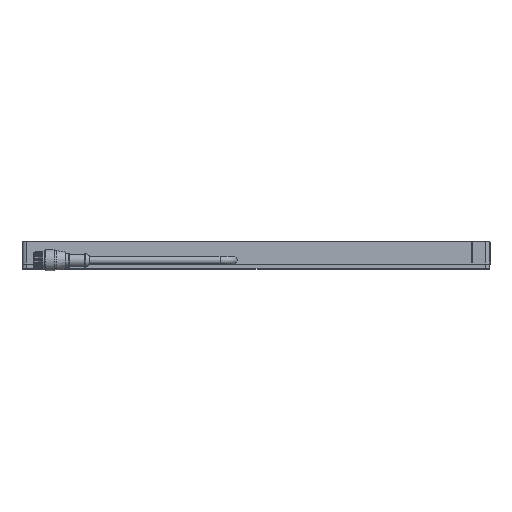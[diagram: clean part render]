
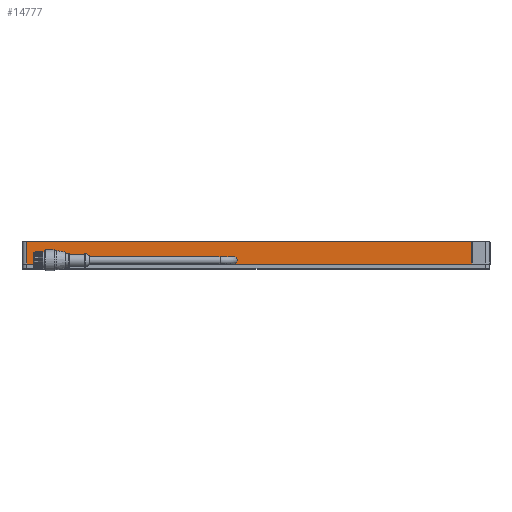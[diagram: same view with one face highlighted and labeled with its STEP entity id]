
A CAD part, top view. The second image highlights one B-rep face of the part: STEP entity #14777.
In plain terms, the highlighted planar face has unit normal (0, 0, 1) as drawn and (0, 0, -1) by its records, which use the part's own axes.
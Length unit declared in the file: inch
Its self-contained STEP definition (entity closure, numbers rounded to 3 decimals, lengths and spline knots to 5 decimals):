
#115 = ORIENTED_EDGE ( 'NONE', *, *, #11330, .T. ) ;
#124 = CARTESIAN_POINT ( 'NONE',  ( -6.5, -0.3125, -0.25 ) ) ;
#251 = ORIENTED_EDGE ( 'NONE', *, *, #5367, .F. ) ;
#631 = CARTESIAN_POINT ( 'NONE',  ( -6.5, -0.3125, -0.25 ) ) ;
#680 = ORIENTED_EDGE ( 'NONE', *, *, #12787, .T. ) ;
#1054 = LINE ( 'NONE', #7808, #14228 ) ;
#1119 = VECTOR ( 'NONE', #12145, 39.37008 ) ;
#1394 = CIRCLE ( 'NONE', #1870, 0.09375 ) ;
#1407 = CARTESIAN_POINT ( 'NONE',  ( 3.99125, -0.20125, -0.25 ) ) ;
#1552 = AXIS2_PLACEMENT_3D ( 'NONE', #14693, #2073, #13701 ) ;
#1788 = EDGE_CURVE ( 'NONE', #2235, #4970, #2589, .T. ) ;
#1870 = AXIS2_PLACEMENT_3D ( 'NONE', #1407, #11505, #11651 ) ;
#1892 = EDGE_CURVE ( 'NONE', #11498, #8907, #4081, .T. ) ;
#1965 = CARTESIAN_POINT ( 'NONE',  ( 6.375, -0.3125, -0.25 ) ) ;
#2073 = DIRECTION ( 'NONE',  ( 0., 0., -1. ) ) ;
#2235 = VERTEX_POINT ( 'NONE', #8704 ) ;
#2267 = CARTESIAN_POINT ( 'NONE',  ( 3.8975, -0.20125, -0.25 ) ) ;
#2459 = EDGE_CURVE ( 'NONE', #4970, #5776, #1394, .T. ) ;
#2589 = LINE ( 'NONE', #9654, #3744 ) ;
#2671 = DIRECTION ( 'NONE',  ( -1., 0., 0. ) ) ;
#3434 = DIRECTION ( 'NONE',  ( -1., 0., 0. ) ) ;
#3744 = VECTOR ( 'NONE', #3926, 39.37008 ) ;
#3926 = DIRECTION ( 'NONE',  ( 0., 1., 0. ) ) ;
#4072 = CARTESIAN_POINT ( 'NONE',  ( -6.5, 0.3125, -0.25 ) ) ;
#4081 = LINE ( 'NONE', #12224, #1119 ) ;
#4970 = VERTEX_POINT ( 'NONE', #2267 ) ;
#5100 = DIRECTION ( 'NONE',  ( 0., -1., 0. ) ) ;
#5144 = ORIENTED_EDGE ( 'NONE', *, *, #14171, .F. ) ;
#5347 = FACE_OUTER_BOUND ( 'NONE', #5571, .T. ) ;
#5367 = EDGE_CURVE ( 'NONE', #6006, #12765, #1054, .T. ) ;
#5571 = EDGE_LOOP ( 'NONE', ( #6512, #13099, #680, #115, #10457, #13943, #8270, #251, #5144 ) ) ;
#5776 = VERTEX_POINT ( 'NONE', #10177 ) ;
#5812 = CARTESIAN_POINT ( 'NONE',  ( 6.375, 0.3125, -0.25 ) ) ;
#5840 = CARTESIAN_POINT ( 'NONE',  ( 4.1025, -0.3125, -0.25 ) ) ;
#6006 = VERTEX_POINT ( 'NONE', #11577 ) ;
#6512 = ORIENTED_EDGE ( 'NONE', *, *, #2459, .F. ) ;
#6561 = LINE ( 'NONE', #13470, #13881 ) ;
#6685 = CARTESIAN_POINT ( 'NONE',  ( -6., -0.3125, -0.25 ) ) ;
#7355 = VERTEX_POINT ( 'NONE', #6685 ) ;
#7467 = DIRECTION ( 'NONE',  ( 0., 1., 0. ) ) ;
#7748 = DIRECTION ( 'NONE',  ( 0., 0., 1. ) ) ;
#7808 = CARTESIAN_POINT ( 'NONE',  ( 4.1025, -0.3125, -0.25 ) ) ;
#7819 = DIRECTION ( 'NONE',  ( 1., 0., 0. ) ) ;
#8069 = CARTESIAN_POINT ( 'NONE',  ( 6.375, 0.3125, -0.25 ) ) ;
#8270 = ORIENTED_EDGE ( 'NONE', *, *, #14375, .T. ) ;
#8593 = VECTOR ( 'NONE', #10419, 39.37008 ) ;
#8704 = CARTESIAN_POINT ( 'NONE',  ( 3.8975, -0.3125, -0.25 ) ) ;
#8907 = VERTEX_POINT ( 'NONE', #11147 ) ;
#9654 = CARTESIAN_POINT ( 'NONE',  ( 3.8975, -0.3125, -0.25 ) ) ;
#10177 = CARTESIAN_POINT ( 'NONE',  ( 4., -0.10791, -0.25 ) ) ;
#10419 = DIRECTION ( 'NONE',  ( 0., -1., 0. ) ) ;
#10457 = ORIENTED_EDGE ( 'NONE', *, *, #1892, .F. ) ;
#10517 = EDGE_CURVE ( 'NONE', #11498, #10846, #14813, .T. ) ;
#10596 = LINE ( 'NONE', #124, #13130 ) ;
#10846 = VERTEX_POINT ( 'NONE', #1965 ) ;
#11147 = CARTESIAN_POINT ( 'NONE',  ( -6., 0.3125, -0.25 ) ) ;
#11330 = EDGE_CURVE ( 'NONE', #7355, #8907, #6561, .T. ) ;
#11498 = VERTEX_POINT ( 'NONE', #8069 ) ;
#11505 = DIRECTION ( 'NONE',  ( 0., 0., -1. ) ) ;
#11577 = CARTESIAN_POINT ( 'NONE',  ( 4.1025, -0.20125, -0.25 ) ) ;
#11651 = DIRECTION ( 'NONE',  ( 1., 0., 0. ) ) ;
#12145 = DIRECTION ( 'NONE',  ( -1., 0., 0. ) ) ;
#12215 = PLANE ( 'NONE',  #12821 ) ;
#12224 = CARTESIAN_POINT ( 'NONE',  ( -6.5, 0.3125, -0.25 ) ) ;
#12645 = VECTOR ( 'NONE', #2671, 39.37008 ) ;
#12658 = CIRCLE ( 'NONE', #1552, 0.09375 ) ;
#12765 = VERTEX_POINT ( 'NONE', #5840 ) ;
#12787 = EDGE_CURVE ( 'NONE', #2235, #7355, #10596, .T. ) ;
#12821 = AXIS2_PLACEMENT_3D ( 'NONE', #4072, #7748, #7819 ) ;
#13099 = ORIENTED_EDGE ( 'NONE', *, *, #1788, .F. ) ;
#13130 = VECTOR ( 'NONE', #3434, 39.37008 ) ;
#13470 = CARTESIAN_POINT ( 'NONE',  ( -6., -0.3125, -0.25 ) ) ;
#13701 = DIRECTION ( 'NONE',  ( 1., 0., 0. ) ) ;
#13881 = VECTOR ( 'NONE', #7467, 39.37008 ) ;
#13943 = ORIENTED_EDGE ( 'NONE', *, *, #10517, .T. ) ;
#14171 = EDGE_CURVE ( 'NONE', #5776, #6006, #12658, .T. ) ;
#14228 = VECTOR ( 'NONE', #5100, 39.37008 ) ;
#14366 = LINE ( 'NONE', #631, #12645 ) ;
#14375 = EDGE_CURVE ( 'NONE', #10846, #12765, #14366, .T. ) ;
#14693 = CARTESIAN_POINT ( 'NONE',  ( 4.00875, -0.20125, -0.25 ) ) ;
#14777 = ADVANCED_FACE ( 'NONE', ( #5347 ), #12215, .F. ) ;
#14813 = LINE ( 'NONE', #5812, #8593 ) ;
